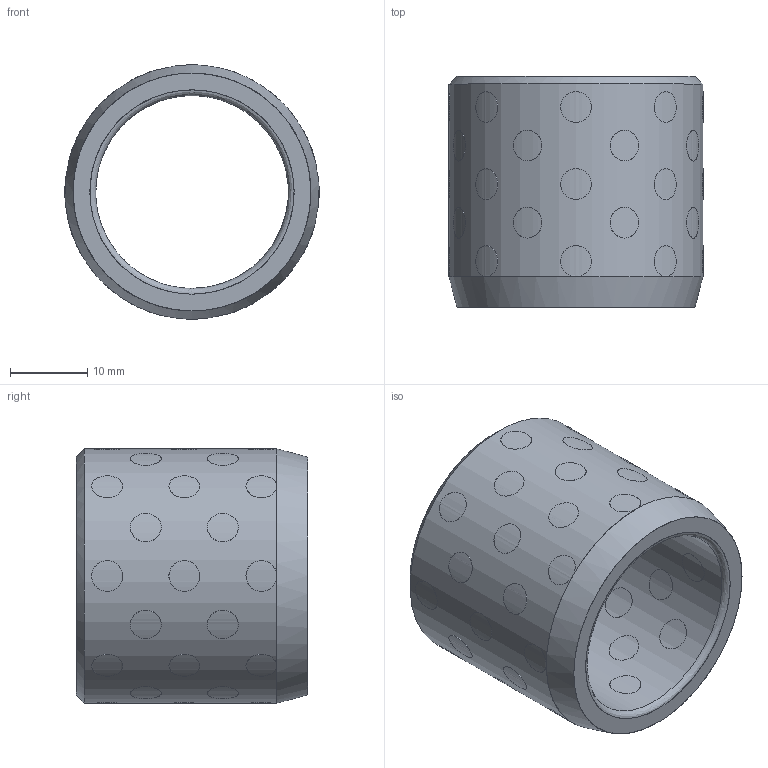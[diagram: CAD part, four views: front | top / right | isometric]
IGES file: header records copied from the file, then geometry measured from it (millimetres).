
Start section: Missler Software BP 521, 31674 Labege Cedex, France Tel   : +33 (0)5 61 00 03 00 Fax   : +33 (0)5 61 00 03 03 Email : sup.topsolid@topsolid.com
Global section: file name: D:\Cuma\18 03 2010\D30.04-2\D30.04_253033.igs; native system: TopSolid v605250 Missler Software; preprocessor: IGES preprocessor v100000; date: 030126.004258; units: millimetre
Bounding box: 33 x 30 x 33 mm (x, y, z)
Surface area: 9625.2 mm2 (no closed solid volume)
Topology: 0 solids, 0 shells, 152 faces, 3317 edges, 3216 vertices
Faces by surface type: bspline 152
